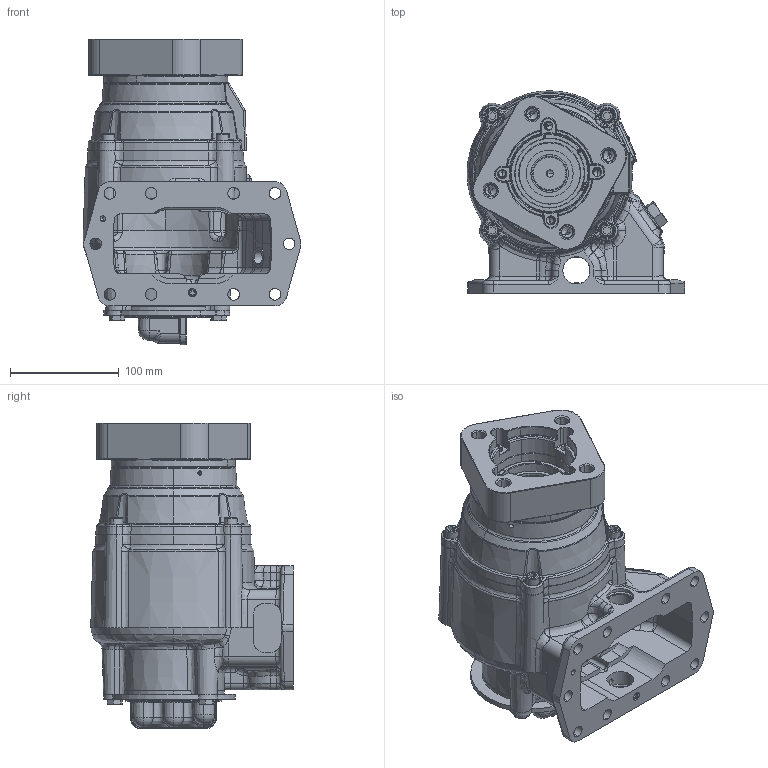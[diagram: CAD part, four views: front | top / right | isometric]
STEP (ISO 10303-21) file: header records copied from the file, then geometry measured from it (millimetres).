
FILE_DESCRIPTION (( 'STEP AP203' ), '1' );
FILE_NAME ('A30-A10XX-MX3IIPX.STEP', '2023-03-07T14:34:56', ( '' ), ( '' ), 'SwSTEP 2.0', 'SolidWorks 2021', '' );
FILE_SCHEMA (( 'CONFIG_CONTROL_DESIGN' ));
Length unit declared in the file: inch
Products named in the file (10): 25T35999TMP; 19T3314_RearCover_HexHeadCapScrew_19T33134; Part6^A30-A10XX-MX3IIPX; 19T36588_19T36588; 15T65391DB3; 15T64348_DIECAST DESIGN; 14T65918_DIN_Flange.step; A30-A10XX-MX3IIPX; RemoteMountRearCover; 01T43433_3Arrangement
Assembly tree (13 placements, depth 2):
  Part6^A30-A10XX-MX3IIPX
  A30-A10XX-MX3IIPX
    01T43433_3Arrangement
    14T65918_DIN_Flange.step
    15T65391DB3
    19T36588_19T36588  x4
    RemoteMountRearCover
    15T64348_DIECAST DESIGN
    19T3314_RearCover_HexHeadCapScrew_19T33134  x3
    25T35999TMP
Bounding box: 200.59 x 186.36 x 281.19 mm (x, y, z)
Volume: 784280.1 mm3; surface area: 423399.2 mm2
Topology: 13 solids, 25 shells, 2652 faces, 6518 edges, 3906 vertices
Faces by surface type: bspline 803, plane 701, cylinder 611, cone 336, torus 179, sphere 22
Entity records: 120483 total; most frequent: CARTESIAN_POINT 65190, ORIENTED_EDGE 12272, DIRECTION 9859, EDGE_CURVE 6145, AXIS2_PLACEMENT_3D 3778, VERTEX_POINT 3763, EDGE_LOOP 2763, FACE_OUTER_BOUND 2546
